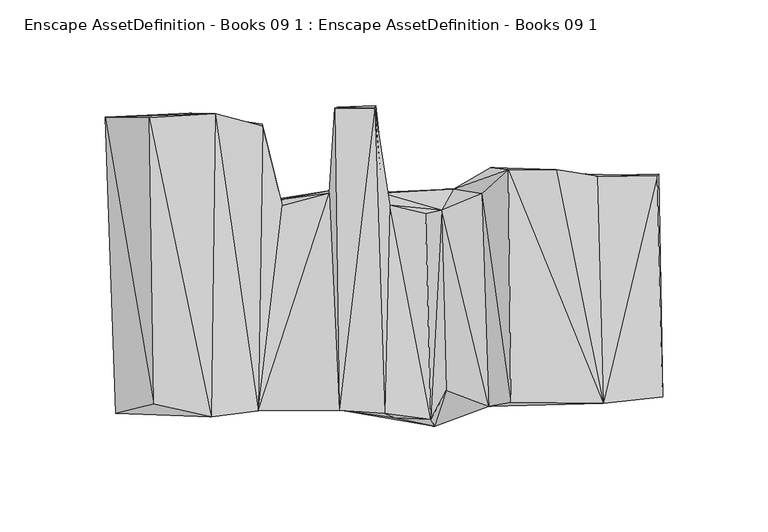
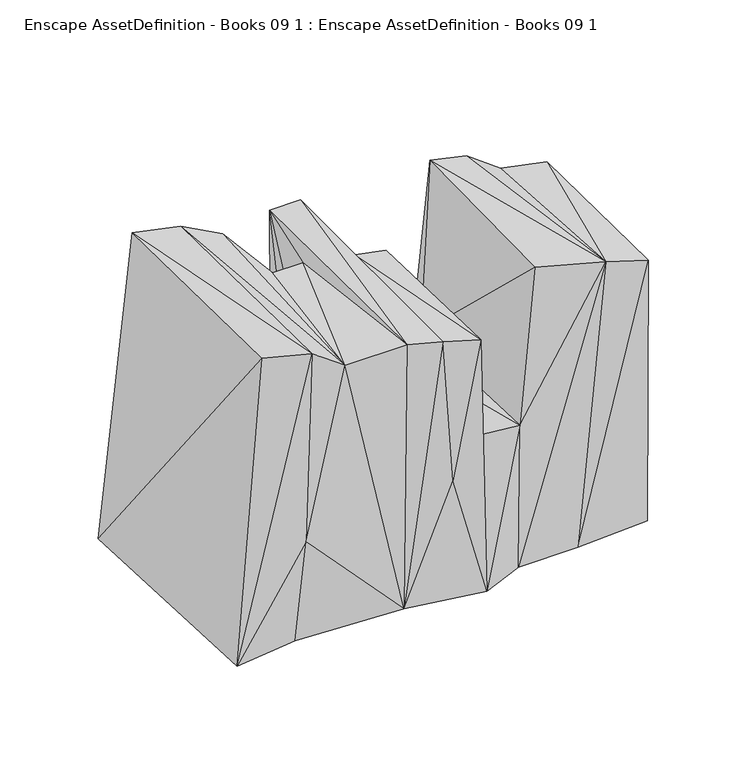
"""IFC4 building model written with IfcOpenShell, lengths in millimetres: geographic element geometry, Enscape AssetDefinition - Books 09 1 : Enscape AssetDefinition - Books 09 1."""

from ifc_helpers import new_model, si_unit, origin, place, context, project, spatial, faceted_brep, source, transform, mapped, element, save


def enscape_assetdefinition_books_09_1_enscape_assetdefinition_7b06a2d0(model_context):
    return source(origin(), model_context, "Body", "Brep", [
        faceted_brep([(-58.2858473, 69.7681531, 0.0), (-54.8002422, 31.5167159, 0.0), (-88.8438225, -61.9677231, 0.0), (-49.9299988, 34.5038176, 29.2125978), (-26.1518955, 36.5312025, 0.0), (-23.4837141, -65.576002, 0.0), (-26.1126421, 38.3417197, 103.8715988), (-49.4108871, 34.1279767, 114.1841784), (-26.4688563, 37.2004583, 165.3260887), (-23.9360966, 77.3988143, 174.4316667), (-58.0238402, 68.8162819, 176.0900766), (-48.8927551, 31.1840493, 170.2581495), (-60.2474883, -66.28941, 172.7143675), (-21.742871, -65.8968836, 172.3198891), (-22.8115171, 77.9198855, 0.0), (-4.8810327, 77.5008723, 174.4934916), (-0.1275702, -67.3717931, 167.8657234), (-4.5424812, 78.6862969, 0.0), (2.1549554, 31.3106366, 164.0288085), (-1.0578515, 37.0159708, 69.2460984), (-0.0628038, 37.5723727, 0.0), (26.8299803, 29.0408693, 91.9830352), (32.3959664, 39.0041023, 0.0), (19.1738047, 27.5021754, 163.3301079), (21.6820315, -70.159696, 163.048476), (45.8732657, 36.8098952, 94.2115858), (49.1096266, -64.1864613, 93.9741135), (29.0477388, -56.547951, 90.046905), (23.4748833, -73.6227334, 0.0), (4.5993971, -69.5169345, 76.395914), (59.6145429, -62.1286593, 192.3474371), (103.2671034, -62.5545457, 181.0947508), (48.9859842, -62.7233312, 0.0), (58.432065, 48.328504, 195.6632733), (81.1778307, 48.3432226, 190.63209), (50.1409844, 49.2950939, 0.0), (54.0878065, 0.5946735, 0.0), (78.1063363, 44.8978469, 0.0), (100.4909799, 45.2707447, 177.7524054), (94.6492478, 46.0155569, 76.8728331), (129.0382594, 45.0391546, 172.2404063), (76.9101158, -53.9680868, 0.0), (86.0618129, -62.2925349, 0.0), (129.5485348, 46.0616797, 0.0), (131.4385235, -59.6459471, 170.3837663), (130.995959, -59.381973, 0.0), (-84.7635418, -66.6897818, 66.0175905), (-82.4751258, -69.1303015, 189.9010241), (-127.7547032, -67.4905255, 0.0), (-132.5523257, 73.1840879, 0.0), (-109.6053869, -62.8391206, 192.6379055), (-111.7367893, 72.7935284, 193.0363029), (-80.5811957, 74.695304, 185.2358878), (-92.8848535, 75.0937164, 0.0)], [[[0, 1, 2]], [[3, 4, 1]], [[2, 1, 5]], [[1, 4, 5]], [[1, 0, 3]], [[6, 4, 3]], [[3, 0, 7]], [[7, 6, 3]], [[8, 6, 7]], [[9, 4, 6]], [[8, 9, 6]], [[0, 10, 7]], [[7, 10, 11]], [[8, 7, 11]], [[8, 12, 13]], [[8, 11, 12]], [[9, 8, 13]], [[9, 14, 4]], [[15, 9, 13]], [[9, 15, 14]], [[13, 12, 5]], [[16, 13, 5]], [[16, 15, 13]], [[15, 17, 14]], [[15, 18, 19]], [[15, 19, 17]], [[18, 15, 16]], [[17, 20, 14]], [[14, 20, 4]], [[20, 17, 19]], [[21, 22, 19]], [[19, 22, 20]], [[18, 21, 19]], [[23, 21, 18]], [[23, 18, 24]], [[24, 18, 16]], [[23, 24, 21]], [[25, 21, 26]], [[21, 24, 27]], [[26, 21, 27]], [[25, 22, 21]], [[27, 24, 28]], [[24, 16, 29]], [[24, 29, 28]], [[28, 26, 27]], [[25, 26, 30]], [[31, 26, 32]], [[30, 26, 31]], [[26, 28, 32]], [[33, 22, 25]], [[30, 33, 25]], [[33, 30, 31]], [[34, 33, 31]], [[34, 35, 33]], [[33, 35, 22]], [[20, 22, 28]], [[22, 32, 28]], [[22, 35, 32]], [[35, 36, 32]], [[35, 37, 36]], [[37, 35, 34]], [[38, 34, 31]], [[34, 38, 37]], [[37, 38, 39]], [[39, 38, 40]], [[40, 38, 31]], [[40, 37, 39]], [[37, 41, 36]], [[37, 42, 41]], [[40, 43, 37]], [[37, 43, 42]], [[36, 41, 32]], [[42, 32, 41]], [[31, 32, 42]], [[44, 42, 45]], [[31, 42, 44]], [[43, 45, 42]], [[40, 44, 43]], [[43, 44, 45]], [[40, 31, 44]], [[29, 5, 28]], [[5, 20, 28]], [[4, 20, 5]], [[5, 46, 2]], [[12, 46, 5]], [[16, 5, 29]], [[46, 47, 48]], [[48, 2, 46]], [[12, 47, 46]], [[0, 2, 49]], [[48, 49, 2]], [[47, 50, 48]], [[49, 48, 50]], [[51, 50, 47]], [[52, 51, 47]], [[12, 52, 47]], [[51, 49, 50]], [[53, 0, 49]], [[52, 53, 49]], [[51, 52, 49]], [[53, 10, 0]], [[52, 10, 53]], [[52, 12, 10]], [[10, 12, 11]]]),
    ])


if __name__ == "__main__":
    model = new_model("IFC4")
    model_context = context("Model", 3, world=origin())
    ifc_project = project(units=[si_unit("LENGTHUNIT", "METRE", prefix="MILLI")], contexts=[model_context])
    site = spatial("IfcSite", under=ifc_project)
    building = spatial("IfcBuilding", under=site)
    placement = place(None, origin())
    enscape_assetdefinition_books_09_1_enscape_assetdefinition_shape = enscape_assetdefinition_books_09_1_enscape_assetdefinition_7b06a2d0(model_context)
    element("IfcGeographicElement", 1, ObjectType="Enscape AssetDefinition - Books 09 1 : Enscape AssetDefinition - Books 09 1", at=placement, inside=building, context=model_context, shape_type="MappedRepresentation", body=[
        mapped(enscape_assetdefinition_books_09_1_enscape_assetdefinition_shape, transform((0.0, 0.0, 0.0), x_axis=(1.0, 0.0, 0.0), y_axis=(0.0, 1.0, 0.0), z_axis=(0.0, 0.0, 1.0))),
    ])
    save(model, "model.ifc")
